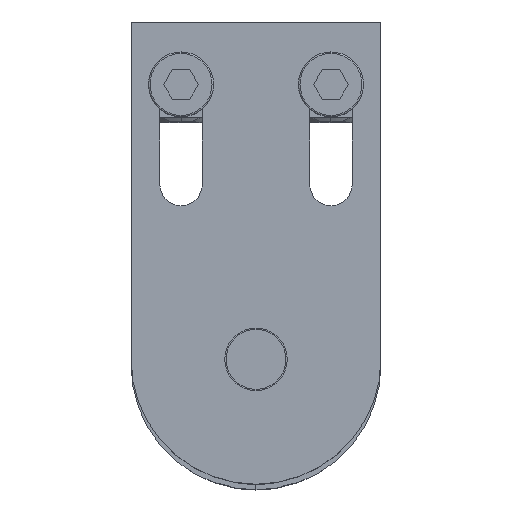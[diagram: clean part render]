
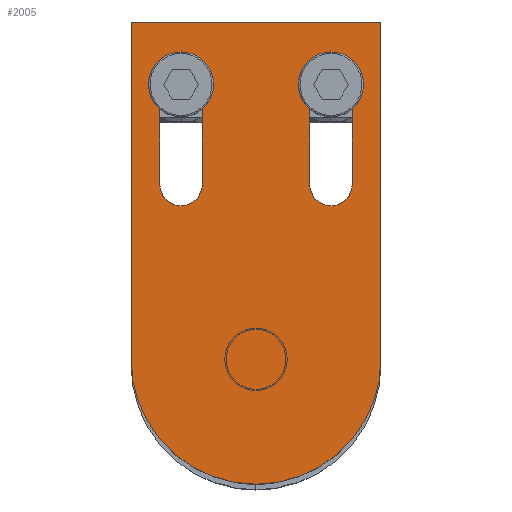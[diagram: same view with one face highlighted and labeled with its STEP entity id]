
A CAD part, top view. The second image highlights one B-rep face of the part: STEP entity #2005.
In plain terms, the highlighted planar face has unit normal (0, 0, 1) as drawn and (0, 0, -1) by its records, which use the part's own axes.
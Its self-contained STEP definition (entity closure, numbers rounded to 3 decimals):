
#81 = CARTESIAN_POINT ( 'NONE',  ( 15., 55., -6. ) ) ;
#169 = EDGE_CURVE ( 'NONE', #4152, #1708, #947, .T. ) ;
#194 = CARTESIAN_POINT ( 'NONE',  ( -19.25, 35., -6. ) ) ;
#212 = CARTESIAN_POINT ( 'NONE',  ( -10.75, 55., -6. ) ) ;
#257 = EDGE_CURVE ( 'NONE', #2704, #3407, #4222, .T. ) ;
#295 = DIRECTION ( 'NONE',  ( 0., 1., 0. ) ) ;
#298 = LINE ( 'NONE', #385, #1726 ) ;
#312 = CARTESIAN_POINT ( 'NONE',  ( 25., 67.5, -6. ) ) ;
#333 = CARTESIAN_POINT ( 'NONE',  ( 25., 0., -6. ) ) ;
#378 = AXIS2_PLACEMENT_3D ( 'NONE', #2602, #2583, #4269 ) ;
#385 = CARTESIAN_POINT ( 'NONE',  ( 25., 0., -6. ) ) ;
#389 = DIRECTION ( 'NONE',  ( 0., 0., 1. ) ) ;
#458 = CARTESIAN_POINT ( 'NONE',  ( 0., 0., -6. ) ) ;
#494 = CIRCLE ( 'NONE', #1658, 4.25 ) ;
#547 = ORIENTED_EDGE ( 'NONE', *, *, #2708, .T. ) ;
#621 = LINE ( 'NONE', #194, #3815 ) ;
#622 = DIRECTION ( 'NONE',  ( 0., 0., 1. ) ) ;
#726 = FACE_BOUND ( 'NONE', #3773, .T. ) ;
#754 = VECTOR ( 'NONE', #295, 1000. ) ;
#795 = ORIENTED_EDGE ( 'NONE', *, *, #2433, .F. ) ;
#875 = LINE ( 'NONE', #4193, #3577 ) ;
#878 = DIRECTION ( 'NONE',  ( 0., -1., 0. ) ) ;
#881 = DIRECTION ( 'NONE',  ( 1., 0., 0. ) ) ;
#897 = CARTESIAN_POINT ( 'NONE',  ( -15., 35., -6. ) ) ;
#939 = VECTOR ( 'NONE', #2332, 1000. ) ;
#947 = CIRCLE ( 'NONE', #4085, 4.25 ) ;
#1006 = EDGE_CURVE ( 'NONE', #2966, #4152, #621, .T. ) ;
#1108 = DIRECTION ( 'NONE',  ( -1., 0., 0. ) ) ;
#1118 = DIRECTION ( 'NONE',  ( 1., 0., 0. ) ) ;
#1209 = CARTESIAN_POINT ( 'NONE',  ( 19.25, 35., -6. ) ) ;
#1215 = ORIENTED_EDGE ( 'NONE', *, *, #1006, .T. ) ;
#1222 = CARTESIAN_POINT ( 'NONE',  ( -25., 0., -6. ) ) ;
#1240 = DIRECTION ( 'NONE',  ( 0., -1., 0. ) ) ;
#1280 = ORIENTED_EDGE ( 'NONE', *, *, #3072, .F. ) ;
#1305 = EDGE_CURVE ( 'NONE', #3800, #2159, #298, .T. ) ;
#1376 = ORIENTED_EDGE ( 'NONE', *, *, #2571, .T. ) ;
#1399 = ORIENTED_EDGE ( 'NONE', *, *, #169, .T. ) ;
#1551 = CIRCLE ( 'NONE', #3214, 25. ) ;
#1630 = CARTESIAN_POINT ( 'NONE',  ( -19.25, 55., -6. ) ) ;
#1658 = AXIS2_PLACEMENT_3D ( 'NONE', #81, #3740, #1108 ) ;
#1691 = ORIENTED_EDGE ( 'NONE', *, *, #1305, .F. ) ;
#1708 = VERTEX_POINT ( 'NONE', #2913 ) ;
#1726 = VECTOR ( 'NONE', #2379, 1000. ) ;
#1786 = VECTOR ( 'NONE', #2893, 1000. ) ;
#1824 = AXIS2_PLACEMENT_3D ( 'NONE', #458, #2775, #1118 ) ;
#1860 = EDGE_CURVE ( 'NONE', #2495, #2704, #2361, .T. ) ;
#1882 = DIRECTION ( 'NONE',  ( 0., -1., 0. ) ) ;
#1900 = DIRECTION ( 'NONE',  ( 0., 0., 1. ) ) ;
#1979 = FACE_BOUND ( 'NONE', #4209, .T. ) ;
#2005 = ADVANCED_FACE ( 'NONE', ( #726, #1979, #3957 ), #2477, .F. ) ;
#2159 = VERTEX_POINT ( 'NONE', #2851 ) ;
#2246 = LINE ( 'NONE', #312, #939 ) ;
#2332 = DIRECTION ( 'NONE',  ( -1., 0., 0. ) ) ;
#2361 = CIRCLE ( 'NONE', #3817, 4.25 ) ;
#2379 = DIRECTION ( 'NONE',  ( 0., 1., 0. ) ) ;
#2396 = ORIENTED_EDGE ( 'NONE', *, *, #257, .T. ) ;
#2433 = EDGE_CURVE ( 'NONE', #2159, #3973, #2246, .T. ) ;
#2445 = EDGE_LOOP ( 'NONE', ( #1280, #2809, #795, #1691 ) ) ;
#2477 = PLANE ( 'NONE',  #1824 ) ;
#2495 = VERTEX_POINT ( 'NONE', #4000 ) ;
#2504 = ORIENTED_EDGE ( 'NONE', *, *, #2847, .T. ) ;
#2526 = ORIENTED_EDGE ( 'NONE', *, *, #1860, .T. ) ;
#2571 = EDGE_CURVE ( 'NONE', #3407, #2883, #494, .T. ) ;
#2579 = CARTESIAN_POINT ( 'NONE',  ( 19.25, 35., -6. ) ) ;
#2583 = DIRECTION ( 'NONE',  ( 0., 0., 1. ) ) ;
#2602 = CARTESIAN_POINT ( 'NONE',  ( -15., 55., -6. ) ) ;
#2603 = CARTESIAN_POINT ( 'NONE',  ( -19.25, 35., -6. ) ) ;
#2704 = VERTEX_POINT ( 'NONE', #1209 ) ;
#2708 = EDGE_CURVE ( 'NONE', #2883, #2495, #875, .T. ) ;
#2775 = DIRECTION ( 'NONE',  ( 0., 0., 1. ) ) ;
#2776 = EDGE_CURVE ( 'NONE', #3973, #3213, #3273, .T. ) ;
#2809 = ORIENTED_EDGE ( 'NONE', *, *, #2776, .F. ) ;
#2815 = ORIENTED_EDGE ( 'NONE', *, *, #4284, .T. ) ;
#2843 = CARTESIAN_POINT ( 'NONE',  ( 19.25, 55., -6. ) ) ;
#2847 = EDGE_CURVE ( 'NONE', #3612, #2966, #3110, .T. ) ;
#2851 = CARTESIAN_POINT ( 'NONE',  ( 25., 67.5, -6. ) ) ;
#2883 = VERTEX_POINT ( 'NONE', #2935 ) ;
#2893 = DIRECTION ( 'NONE',  ( 0., 1., 0. ) ) ;
#2913 = CARTESIAN_POINT ( 'NONE',  ( -10.75, 35., -6. ) ) ;
#2935 = CARTESIAN_POINT ( 'NONE',  ( 10.75, 55., -6. ) ) ;
#2966 = VERTEX_POINT ( 'NONE', #1630 ) ;
#3072 = EDGE_CURVE ( 'NONE', #3213, #3800, #1551, .T. ) ;
#3093 = DIRECTION ( 'NONE',  ( -1., 0., 0. ) ) ;
#3109 = LINE ( 'NONE', #3607, #754 ) ;
#3110 = CIRCLE ( 'NONE', #378, 4.25 ) ;
#3194 = DIRECTION ( 'NONE',  ( 1., 0., 0. ) ) ;
#3213 = VERTEX_POINT ( 'NONE', #3665 ) ;
#3214 = AXIS2_PLACEMENT_3D ( 'NONE', #4283, #622, #3194 ) ;
#3273 = LINE ( 'NONE', #1222, #4120 ) ;
#3392 = CARTESIAN_POINT ( 'NONE',  ( 15., 35., -6. ) ) ;
#3407 = VERTEX_POINT ( 'NONE', #2843 ) ;
#3577 = VECTOR ( 'NONE', #1882, 1000. ) ;
#3607 = CARTESIAN_POINT ( 'NONE',  ( -10.75, 35., -6. ) ) ;
#3612 = VERTEX_POINT ( 'NONE', #212 ) ;
#3665 = CARTESIAN_POINT ( 'NONE',  ( -25., 0., -6. ) ) ;
#3740 = DIRECTION ( 'NONE',  ( 0., 0., 1. ) ) ;
#3750 = CARTESIAN_POINT ( 'NONE',  ( -25., 67.5, -6. ) ) ;
#3773 = EDGE_LOOP ( 'NONE', ( #547, #2526, #2396, #1376 ) ) ;
#3800 = VERTEX_POINT ( 'NONE', #333 ) ;
#3815 = VECTOR ( 'NONE', #878, 1000. ) ;
#3817 = AXIS2_PLACEMENT_3D ( 'NONE', #3392, #389, #3093 ) ;
#3957 = FACE_OUTER_BOUND ( 'NONE', #2445, .T. ) ;
#3973 = VERTEX_POINT ( 'NONE', #3750 ) ;
#4000 = CARTESIAN_POINT ( 'NONE',  ( 10.75, 35., -6. ) ) ;
#4085 = AXIS2_PLACEMENT_3D ( 'NONE', #897, #1900, #881 ) ;
#4120 = VECTOR ( 'NONE', #1240, 1000. ) ;
#4152 = VERTEX_POINT ( 'NONE', #2603 ) ;
#4193 = CARTESIAN_POINT ( 'NONE',  ( 10.75, 35., -6. ) ) ;
#4209 = EDGE_LOOP ( 'NONE', ( #1215, #1399, #2815, #2504 ) ) ;
#4222 = LINE ( 'NONE', #2579, #1786 ) ;
#4269 = DIRECTION ( 'NONE',  ( 1., 0., 0. ) ) ;
#4283 = CARTESIAN_POINT ( 'NONE',  ( 0., 0., -6. ) ) ;
#4284 = EDGE_CURVE ( 'NONE', #1708, #3612, #3109, .T. ) ;
